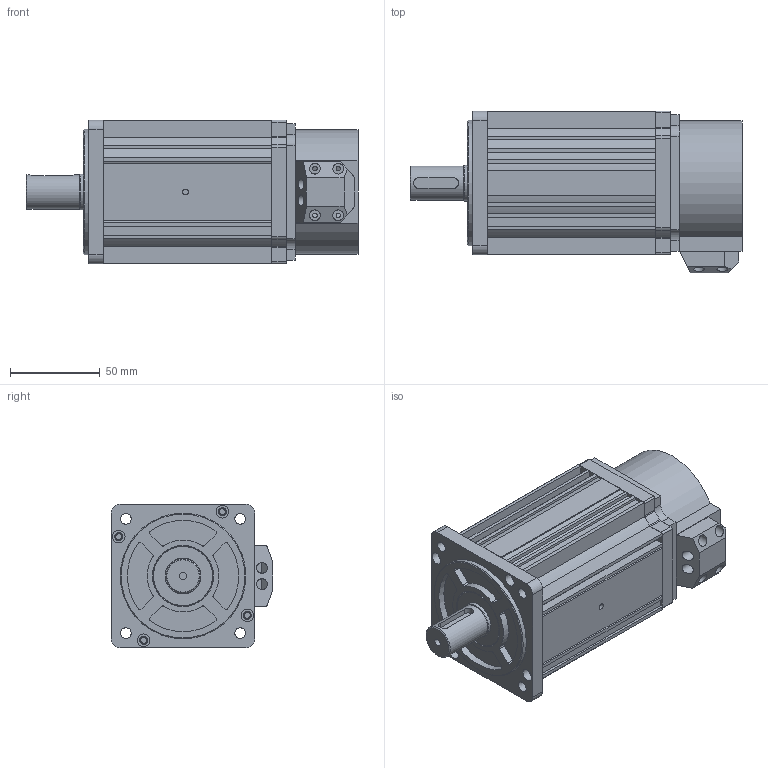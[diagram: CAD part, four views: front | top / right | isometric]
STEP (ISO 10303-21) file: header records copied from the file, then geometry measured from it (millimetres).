
FILE_DESCRIPTION (( 'STEP AP203' ), '1' );
FILE_NAME ('80-02430.STEP', '2019-12-11T08:14:32', ( '微软用户' ), ( '微软中国' ), 'SwSTEP 2.0', 'SolidWorks 2016', '' );
FILE_SCHEMA (( 'CONFIG_CONTROL_DESIGN' ));
Length unit declared in the file: millimetre
Products named in the file (1): 80-02430
Bounding box: 185 x 90 x 80 mm (x, y, z)
Surface area: 83256 mm2 (no closed solid volume)
Topology: 0 solids, 7 shells, 263 faces, 765 edges, 525 vertices
Faces by surface type: plane 156, cylinder 103, cone 4
Full cylindrical faces by diameter (mm): 3.3 x1, 3.5 x4, 4.2 x1, 6 x10, 7 x8, 19 x1, 20 x1, 33 x1, 70 x1
Entity records: 8660 total; most frequent: CARTESIAN_POINT 1648, DIRECTION 1479, ORIENTED_EDGE 1262, EDGE_CURVE 721, VERTEX_POINT 514, AXIS2_PLACEMENT_3D 503, LINE 473, VECTOR 473
